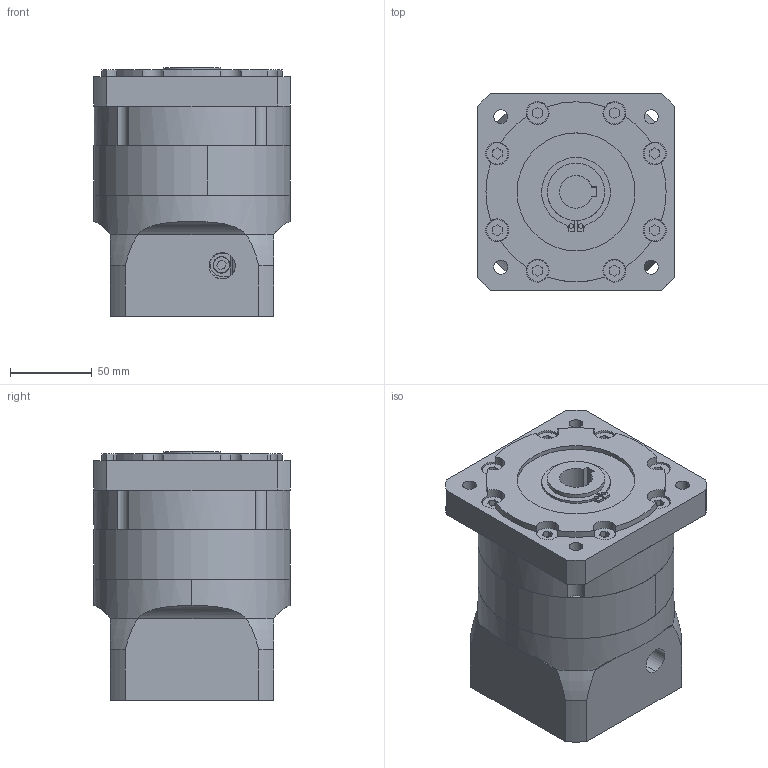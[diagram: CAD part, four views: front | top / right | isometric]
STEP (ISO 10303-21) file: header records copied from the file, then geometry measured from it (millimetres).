
FILE_DESCRIPTION (( 'STEP AP203' ), '1' );
FILE_NAME ('PBF120-L1-24-95-115M6.STEP', '2026-06-18T02:48:20', ( 'Windows User' ), ( 'P R C' ), 'SwSTEP 2.0', 'SolidWorks 2016', '' );
FILE_SCHEMA (( 'CONFIG_CONTROL_DESIGN' ));
Length unit declared in the file: millimetre
Products named in the file (7): 囀鞠褒蹟佪 M6x20; PBF120-WZ05-M6; PBF120 κｳﾝﾈｦ-ﾓﾅｻｯ_ﾒｻｼｶﾄﾚｳﾝﾈｦ; PBF120 奻屳唳-謂怀堤-20-B6; 粣創-6007 40x68x15; PBF120-LZ0X-24-WX; PBF120-L1-24-95-115M6
Assembly tree (6 placements, depth 2):
  PBF120-L1-24-95-115M6
    囀鞠褒蹟佪 M6x20
    PBF120-WZ05-M6
    PBF120 κｳﾝﾈｦ-ﾓﾅｻｯ_ﾒｻｼｶﾄﾚｳﾝﾈｦ
    PBF120 奻屳唳-謂怀堤-20-B6
    粣創-6007 40x68x15
    PBF120-LZ0X-24-WX
Bounding box: 120 x 120 x 152 mm (x, y, z)
Volume: 1338605.5 mm3; surface area: 203307.4 mm2
Topology: 6 solids, 14 shells, 1211 faces, 3245 edges, 2133 vertices
Faces by surface type: plane 649, bspline 301, cylinder 212, cone 49
Entity records: 49622 total; most frequent: CARTESIAN_POINT 20368, ORIENTED_EDGE 6442, DIRECTION 5040, EDGE_CURVE 3221, VERTEX_POINT 2133, LINE 1834, VECTOR 1834, AXIS2_PLACEMENT_3D 1603
